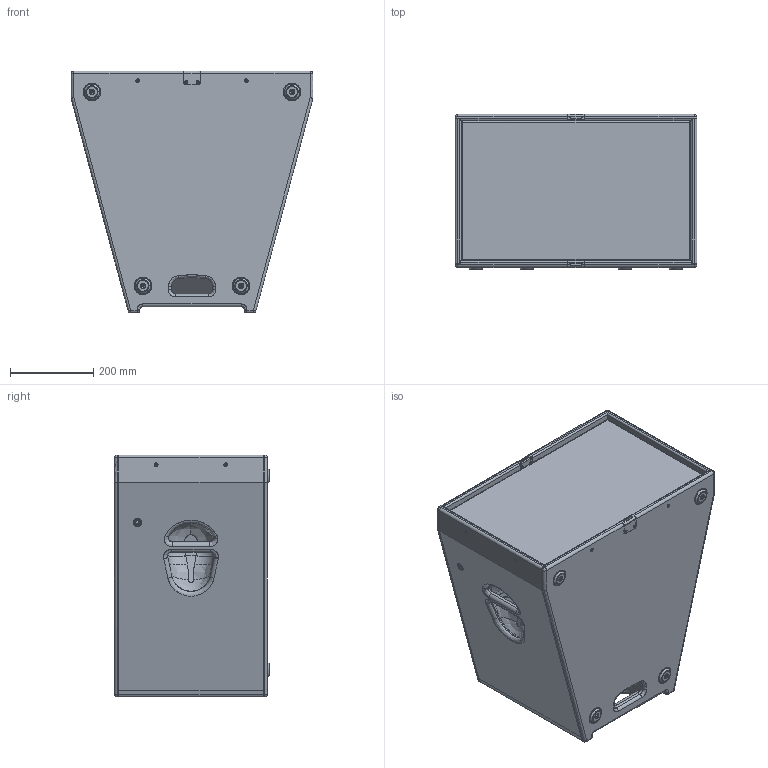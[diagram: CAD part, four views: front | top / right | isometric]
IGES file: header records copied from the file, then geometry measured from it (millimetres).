
Start section: SolidWorks IGES file using analytic representation for surfaces
Global section: file name: D:\Entwicklungen\Projekte fertig.ung\PS-Serie\3D Daten Homepage\PS1EX.IGS; native system: SolidWorks 2023; preprocessor: SolidWorks 2023; author: Alex; date: 260625.131629; units: millimetre
Bounding box: 580 x 372 x 580 mm (x, y, z)
Surface area: 2871570.9 mm2 (no closed solid volume)
Topology: 0 solids, 0 shells, 2009 faces, 21675 edges, 21605 vertices
Faces by surface type: bspline 1081, revolution 928
